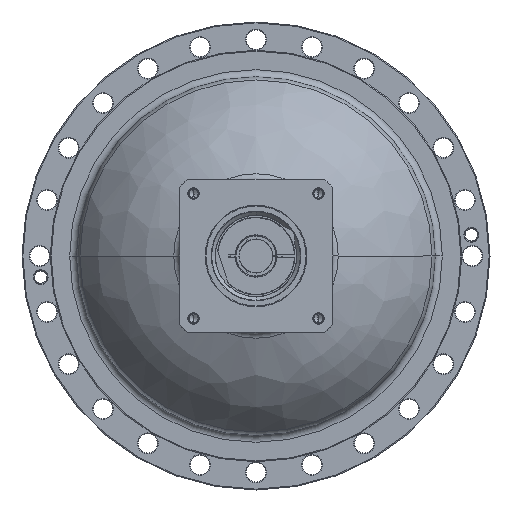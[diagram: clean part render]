
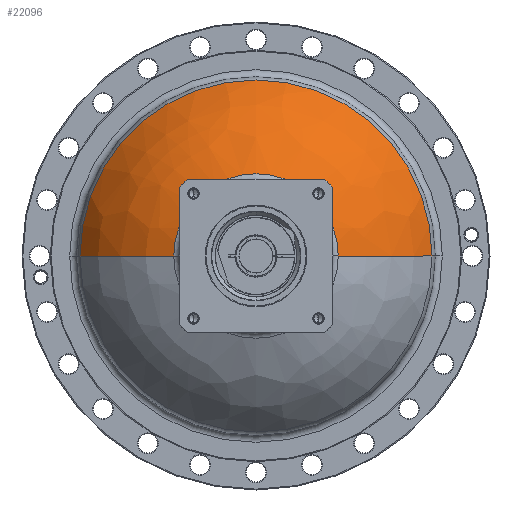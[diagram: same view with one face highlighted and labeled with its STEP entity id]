
A CAD part, left-side view. The second image highlights one B-rep face of the part: STEP entity #22096.
In plain terms, the highlighted free-form (B-spline) face has degree [3, 3] with [7, 4] control points.
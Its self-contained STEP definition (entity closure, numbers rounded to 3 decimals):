
#21604=CARTESIAN_POINT('',(-11.967,0.,0.));
#21605=DIRECTION('',(-1.,0.,0.));
#21606=DIRECTION('',(0.,-1.,0.));
#21607=AXIS2_PLACEMENT_3D('',#21604,#21605,#21606);
#21609=CARTESIAN_POINT('',(-96.954,0.,0.));
#21610=DIRECTION('',(1.,0.,0.));
#21611=DIRECTION('',(0.,1.,0.));
#21612=AXIS2_PLACEMENT_3D('',#21609,#21610,#21611);
#21619=CARTESIAN_POINT('',(-201.319,28.716,0.));
#21620=DIRECTION('',(0.,0.,-1.));
#21621=DIRECTION('',(0.522,0.853,0.));
#21622=AXIS2_PLACEMENT_3D('',#21619,#21620,#21621);
#21629=CARTESIAN_POINT('',(-201.319,-28.716,0.));
#21630=DIRECTION('',(0.,0.,1.));
#21631=DIRECTION('',(0.522,-0.853,0.));
#21632=AXIS2_PLACEMENT_3D('',#21629,#21630,#21631);
#21866=CARTESIAN_POINT('',(-96.954,199.326,
0.));
#21867=CARTESIAN_POINT('',(-96.954,-199.326,0.));
#21868=VERTEX_POINT('',#21866);
#21869=VERTEX_POINT('',#21867);
#21878=CARTESIAN_POINT('',(-11.967,93.103,
0.));
#21879=CARTESIAN_POINT('',(-11.967,-93.103,
0.));
#21880=VERTEX_POINT('',#21878);
#21881=VERTEX_POINT('',#21879);
#22058=CARTESIAN_POINT('',(-99.333,200.362,
-12.606));
#22059=CARTESIAN_POINT('',(-57.014,175.326,
-11.031));
#22060=CARTESIAN_POINT('',(-26.281,136.988,
-8.619));
#22061=CARTESIAN_POINT('',(-11.091,90.29,
-5.681));
#22062=CARTESIAN_POINT('',(-99.333,208.12,
110.697));
#22063=CARTESIAN_POINT('',(-57.014,182.114,
96.865));
#22064=CARTESIAN_POINT('',(-26.281,142.292,
75.684));
#22065=CARTESIAN_POINT('',(-11.091,93.785,
49.884));
#22066=CARTESIAN_POINT('',(-99.333,123.547,
200.759));
#22067=CARTESIAN_POINT('',(-57.014,108.109,
175.673));
#22068=CARTESIAN_POINT('',(-26.281,84.469,
137.259));
#22069=CARTESIAN_POINT('',(-11.091,55.674,
90.468));
#22070=CARTESIAN_POINT('',(-99.333,0.,
200.759));
#22071=CARTESIAN_POINT('',(-57.014,0.,
175.673));
#22072=CARTESIAN_POINT('',(-26.281,0.,
137.259));
#22073=CARTESIAN_POINT('',(-11.091,0.,
90.468));
#22074=CARTESIAN_POINT('',(-99.333,-123.547,
200.759));
#22075=CARTESIAN_POINT('',(-57.014,-108.109,
175.673));
#22076=CARTESIAN_POINT('',(-26.281,-84.469,
137.259));
#22077=CARTESIAN_POINT('',(-11.091,-55.674,
90.468));
#22078=CARTESIAN_POINT('',(-99.333,-208.12,
110.697));
#22079=CARTESIAN_POINT('',(-57.014,-182.114,
96.865));
#22080=CARTESIAN_POINT('',(-26.281,-142.292,
75.684));
#22081=CARTESIAN_POINT('',(-11.091,-93.785,
49.884));
#22082=CARTESIAN_POINT('',(-99.333,-200.362,
-12.606));
#22083=CARTESIAN_POINT('',(-57.014,-175.326,
-11.031));
#22084=CARTESIAN_POINT('',(-26.281,-136.988,
-8.619));
#22085=CARTESIAN_POINT('',(-11.091,-90.29,
-5.681));
#22086=(BOUNDED_SURFACE()B_SPLINE_SURFACE(3,3,((#22058,#22059,#22060,#22061),(
#22062,#22063,#22064,#22065),(#22066,#22067,#22068,#22069),(#22070,#22071,
#22072,#22073),(#22074,#22075,#22076,#22077),(#22078,#22079,#22080,#22081),(
#22082,#22083,#22084,#22085)),.UNSPECIFIED.,.F.,.F.,.F.)B_SPLINE_SURFACE_WITH_KNOTS((4,3,4),(4,4),(0.,1.,2.),(0.,1.),.UNSPECIFIED.)GEOMETRIC_REPRESENTATION_ITEM()RATIONAL_B_SPLINE_SURFACE(((1.227,1.174,
1.174,1.227),(0.969,0.927,
0.927,0.969),(0.969,0.927,
0.927,0.969),(1.227,1.174,
1.174,1.227),(0.969,0.927,
0.927,0.969),(0.969,0.927,
0.927,0.969),(1.227,1.174,
1.174,1.227)))REPRESENTATION_ITEM('')SURFACE());
#22087=ORIENTED_EDGE('',*,*,#22052,.F.);
#22089=ORIENTED_EDGE('',*,*,#22088,.F.);
#22091=ORIENTED_EDGE('',*,*,#22090,.F.);
#22093=ORIENTED_EDGE('',*,*,#22092,.T.);
#22094=EDGE_LOOP('',(#22087,#22089,#22091,#22093));
#22095=FACE_OUTER_BOUND('',#22094,.F.);
#22096=ADVANCED_FACE('',(#22095),#22086,.T.);
#21608=CIRCLE('',#21607,93.103);
#21613=CIRCLE('',#21612,199.326);
#21623=CIRCLE('',#21622,200.);
#21633=CIRCLE('',#21632,200.);
#22052=EDGE_CURVE('',#21881,#21880,#21608,.T.);
#22088=EDGE_CURVE('',#21869,#21881,#21633,.T.);
#22090=EDGE_CURVE('',#21868,#21869,#21613,.T.);
#22092=EDGE_CURVE('',#21868,#21880,#21623,.T.);
